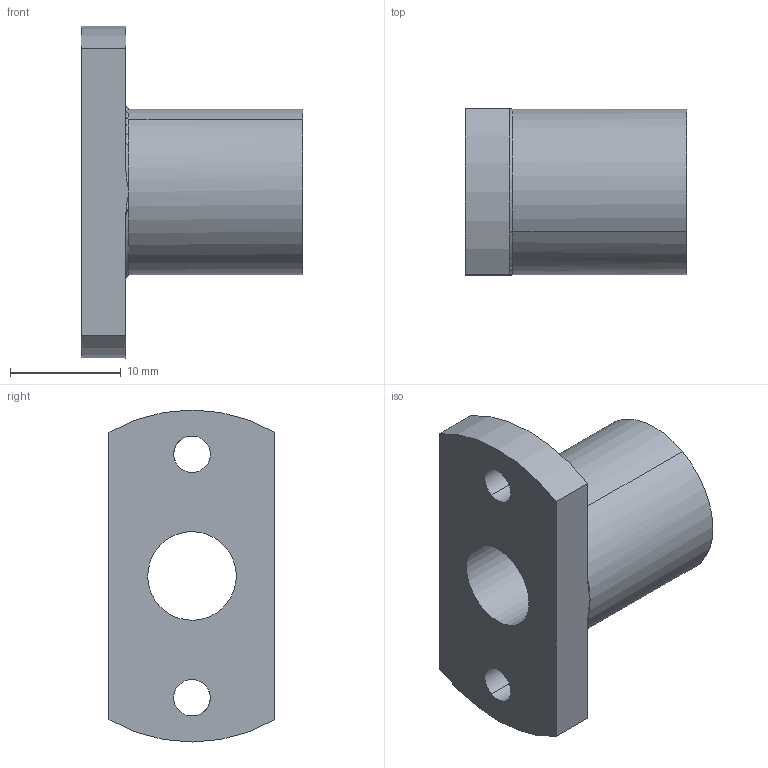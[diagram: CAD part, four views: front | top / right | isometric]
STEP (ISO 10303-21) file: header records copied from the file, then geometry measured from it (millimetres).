
FILE_DESCRIPTION(('CATIA V5 STEP Exchange'),'2;1');
FILE_NAME('C:\Users\aa\Documents\이댈\TM\ASM\ASM8020.stp','2020-04-01T09:12:48+00:00',('none'),('none'),'CATIA Version 5 Release 20 SP 7 (IN-10)','CATIA V5 STEP AP203','none');
FILE_SCHEMA(('CONFIG_CONTROL_DESIGN'));
Length unit declared in the file: millimetre
Products named in the file (1): ASM8020
Bounding box: 20 x 15 x 30 mm (x, y, z)
Volume: 3476.4 mm3; surface area: 2393.9 mm2
Topology: 1 solids, 1 shells, 20 faces, 50 edges, 32 vertices
Faces by surface type: cylinder 10, plane 6, torus 4
Entity records: 671 total; most frequent: CARTESIAN_POINT 168, ORIENTED_EDGE 100, DIRECTION 75, EDGE_CURVE 50, AXIS2_PLACEMENT_3D 41, VERTEX_POINT 32, EDGE_LOOP 26, CIRCLE 23
